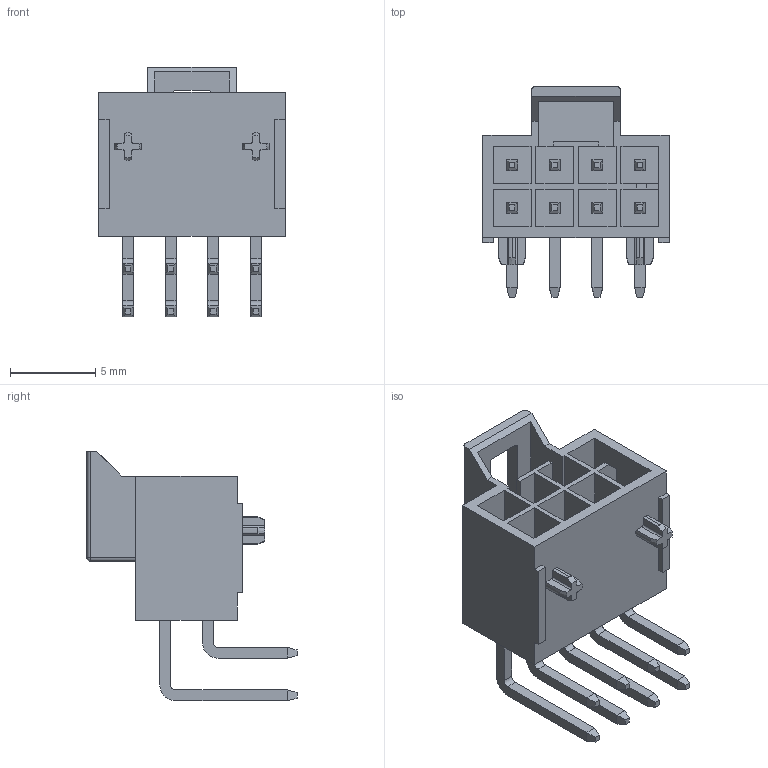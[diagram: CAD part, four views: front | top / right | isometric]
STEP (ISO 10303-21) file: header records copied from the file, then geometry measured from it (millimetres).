
FILE_DESCRIPTION (( 'STEP AP203' ), '1' );
FILE_NAME ('GT-A2513WRD-208BMT01.STEP', '2026-06-22T07:33:55', ( '' ), ( '' ), 'SwSTEP 2.0', 'SolidWorks 2020', '' );
FILE_SCHEMA (( 'CONFIG_CONTROL_DESIGN' ));
Length unit declared in the file: millimetre
Products named in the file (1): GT-A2513WRD-208BMT01
Bounding box: 10.94 x 12.34 x 14.66 mm (x, y, z)
Volume: 389.3 mm3; surface area: 1251.5 mm2
Topology: 1 solids, 1 shells, 567 faces, 1502 edges, 976 vertices
Faces by surface type: plane 442, bspline 71, cylinder 42, cone 10, sphere 2
Entity records: 20797 total; most frequent: CARTESIAN_POINT 7115, ORIENTED_EDGE 3000, DIRECTION 2432, EDGE_CURVE 1500, LINE 1246, VECTOR 1246, VERTEX_POINT 976, EDGE_LOOP 610
